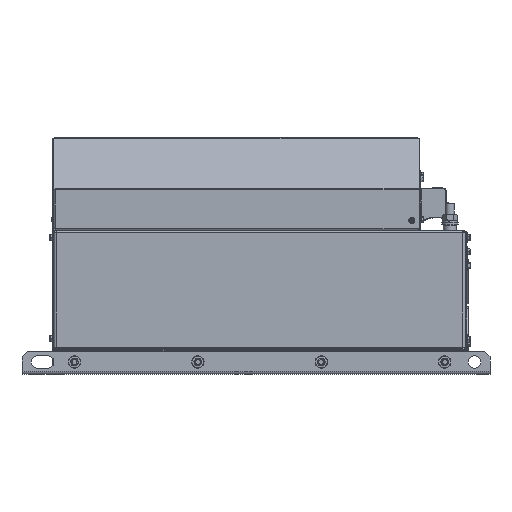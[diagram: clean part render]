
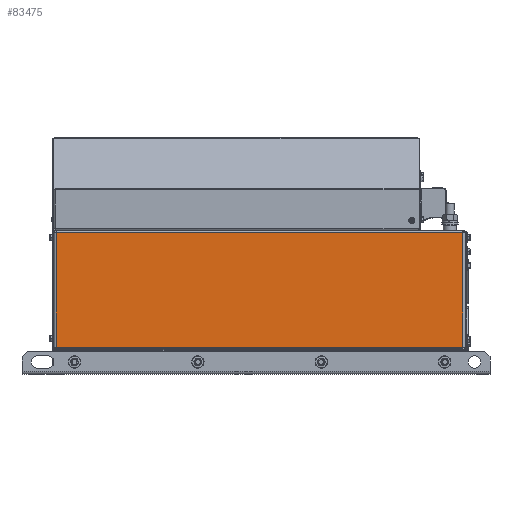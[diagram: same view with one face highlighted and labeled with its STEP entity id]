
A CAD part, left-side view. The second image highlights one B-rep face of the part: STEP entity #83475.
In plain terms, the highlighted planar face has unit normal (-1, 0, 0).
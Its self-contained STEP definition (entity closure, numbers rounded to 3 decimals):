
#3279=PLANE('',#88531);
#6200=FACE_OUTER_BOUND('',#11031,.T.);
#11031=EDGE_LOOP('',(#56791,#56792,#56793,#56794));
#20168=LINE('',#122145,#27871);
#20172=LINE('',#122156,#27875);
#20173=LINE('',#122160,#27876);
#20174=LINE('',#122161,#27877);
#27871=VECTOR('',#98031,10.);
#27875=VECTOR('',#98045,10.);
#27876=VECTOR('',#98050,10.);
#27877=VECTOR('',#98051,10.);
#35390=VERTEX_POINT('',#121237);
#35560=VERTEX_POINT('',#121971);
#35570=VERTEX_POINT('',#122138);
#35573=VERTEX_POINT('',#122159);
#43701=EDGE_CURVE('',#35560,#35570,#20168,.T.);
#43707=EDGE_CURVE('',#35570,#35390,#20172,.T.);
#43709=EDGE_CURVE('',#35560,#35573,#20173,.T.);
#43710=EDGE_CURVE('',#35573,#35390,#20174,.T.);
#56791=ORIENTED_EDGE('',*,*,#43701,.F.);
#56792=ORIENTED_EDGE('',*,*,#43709,.T.);
#56793=ORIENTED_EDGE('',*,*,#43710,.T.);
#56794=ORIENTED_EDGE('',*,*,#43707,.F.);
#83475=ADVANCED_FACE('',(#6200),#3279,.F.);
#88531=AXIS2_PLACEMENT_3D('',#122158,#98048,#98049);
#98031=DIRECTION('',(0.,0.,-1.));
#98045=DIRECTION('',(0.,1.,0.));
#98048=DIRECTION('center_axis',(1.,0.,0.));
#98049=DIRECTION('ref_axis',(0.,0.,
-1.));
#98050=DIRECTION('',(0.,1.,0.));
#98051=DIRECTION('',(0.,0.,-1.));
#121237=CARTESIAN_POINT('',(-140.861,178.899,16.013));
#121971=CARTESIAN_POINT('',(-140.861,-216.501,127.261));
#122138=CARTESIAN_POINT('',(-140.861,-216.501,16.013));
#122145=CARTESIAN_POINT('',(-140.861,-216.501,115.271));
#122156=CARTESIAN_POINT('',(-140.861,-218.801,16.013));
#122158=CARTESIAN_POINT('Origin',(-140.861,-218.801,15.061));
#122159=CARTESIAN_POINT('',(-140.861,178.899,127.261));
#122160=CARTESIAN_POINT('',(-140.861,181.199,127.261));
#122161=CARTESIAN_POINT('',(-140.861,178.899,65.161));
